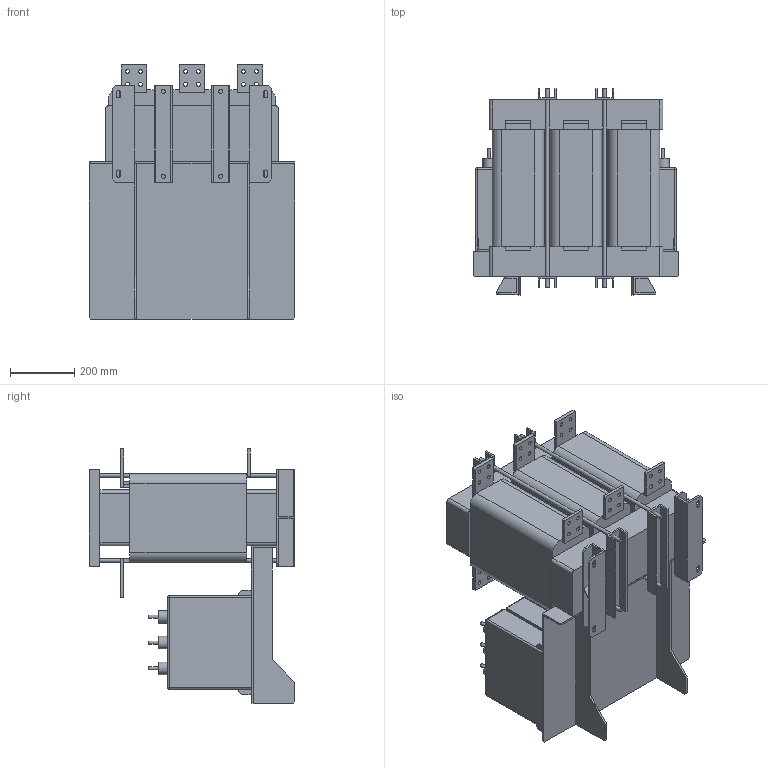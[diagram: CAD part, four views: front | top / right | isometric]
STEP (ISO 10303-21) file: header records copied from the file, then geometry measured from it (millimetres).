
FILE_DESCRIPTION(/* description */ (''),/* implementation_level */ '2;1');
FILE_NAME(/* name */ 'Sin-T4-1400.stp',/* time_stamp */ '2025-03-11T09:37:57+04:00',/* author */ ('Лео'),/* organization */ (''),/* preprocessor_version */ 'ST-DEVELOPER v19.2',/* originating_system */ 'Autodesk Inventor 2024',/* authorisation */ '');
FILE_SCHEMA (('AUTOMOTIVE_DESIGN { 1 0 10303 214 3 1 1 }'));
Length unit declared in the file: millimetre
Products named in the file (1): Sin-T4-004
Bounding box: 640 x 640 x 790 mm (x, y, z)
Volume: 116014157.2 mm3; surface area: 5421915.1 mm2
Topology: 99 solids, 99 shells, 806 faces, 1734 edges, 1126 vertices
Faces by surface type: plane 586, cylinder 193, sphere 27
Full cylindrical faces by diameter (mm): 10 x21, 12 x40, 39 x21
Entity records: 21784 total; most frequent: DIRECTION 3733, CARTESIAN_POINT 3667, ORIENTED_EDGE 3468, EDGE_CURVE 1734, LINE 1349, VECTOR 1349, AXIS2_PLACEMENT_3D 1192, VERTEX_POINT 1126
